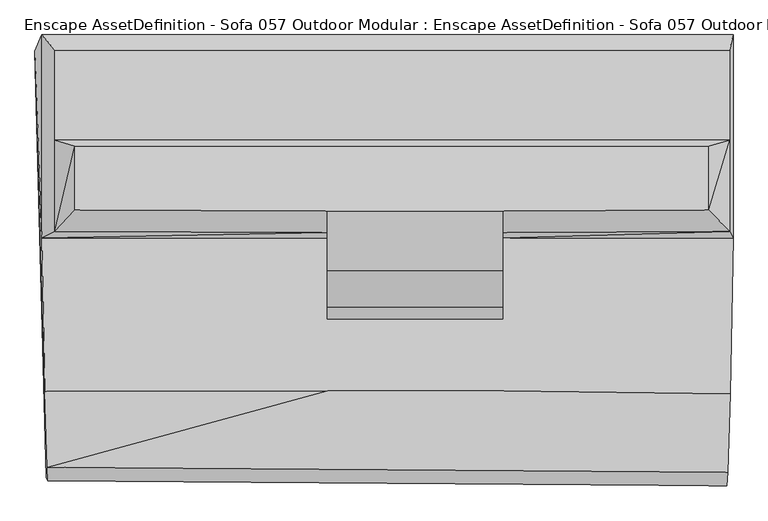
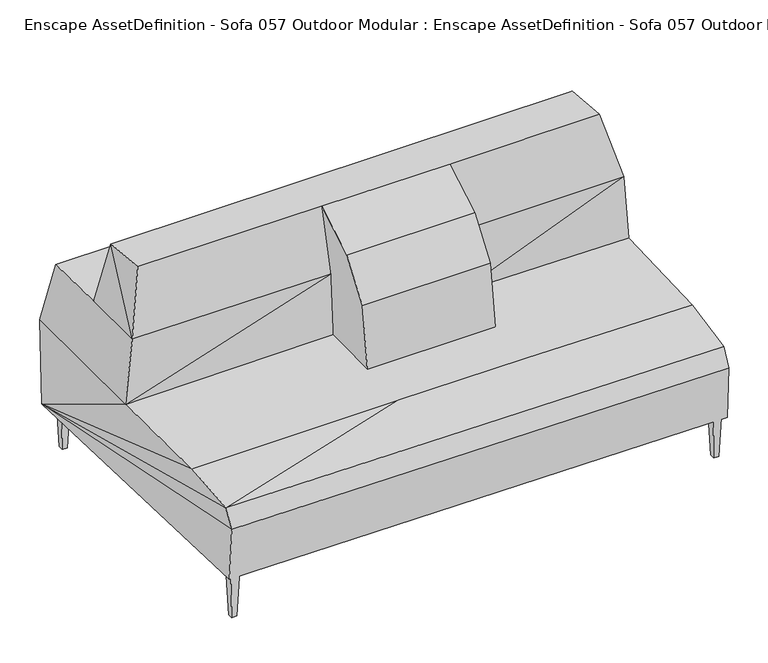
"""IFC4 building model written with IfcOpenShell, lengths in millimetres: geographic element geometry, Enscape AssetDefinition - Sofa 057 Outdoor Modular : Enscape AssetDefinition - Sofa 057 Outdoor Modular."""

from ifc_helpers import new_model, si_unit, origin, place, context, project, spatial, triangles, source, transform, mapped, element, save


def enscape_assetdefinition_sofa_057_outdoor_modular_enscape_592e224a(model_context):
    return source(origin(), model_context, "Body", "Tessellation", [
        triangles([(936.8137482, -602.9425939, 167.468121), (936.8136755, -612.1256453, 370.971833), (-923.9164976, -598.1377999, 369.8331671), (953.888142, 579.5160078, 167.4681391), (939.3489859, -575.5157433, 433.2673402), (-927.9177795, -588.9084214, 167.468121), (-959.234836, 579.5159351, 167.4681391), (-940.2710226, 624.4120319, 470.1738447), (-925.1793566, -561.5192502, 433.5167799), (-158.7827681, -351.5337753, 465.9283916), (-932.4754955, -352.797579, 465.3530634), (322.3198608, -351.5337027, 465.9283916), (-158.7827681, 67.2849873, 474.9990952), (-940.2710226, 66.8143947, 470.1738447), (-158.7827681, -154.8601696, 471.1503839), (322.3198608, -123.8390253, 706.5078203), (-158.7827681, -123.8390253, 706.507893), (-158.7827863, 141.4646028, 940.2689152), (-158.7827681, 82.7663234, 706.507893), (-904.2295452, 84.8344294, 706.5078203), (-849.5913105, 143.5047672, 940.2689152), (-158.7827681, -21.7205651, 845.5287678), (-849.5912378, 319.6356133, 924.6050457), (887.3329021, 143.5048126, 940.2689152), (887.3329021, 319.6356497, 924.6050457), (322.3198608, 141.4646028, 940.2689152), (322.3198608, -21.7205651, 845.5287678), (322.3198608, 82.7663234, 706.5078203), (953.8879967, 624.4120319, 470.1738447), (944.0658491, 582.6662879, 700.8636154), (944.0658491, 336.2693727, 706.5078203), (-904.2295452, 336.2693364, 706.5078203), (953.888142, 66.8144355, 470.1738447), (944.0658491, 84.8344748, 706.5078203), (322.3198608, 67.2849873, 474.9990952), (322.3198608, -154.8601696, 471.1503839), (-904.2292545, 582.6662879, 700.8636154), (946.37799, -360.0273703, 465.2242558), (903.2035177, -574.3092762, 0.0), (903.2035177, -554.4006077, 0.0), (922.4011831, -574.3092762, 0.0), (929.5526361, -581.7256113, 185.2861286), (896.0520647, -581.7256113, 185.2861286), (922.4011831, -554.4006077, 0.0), (929.5526361, -546.9843816, 185.2861286), (896.0520647, -546.9843816, 185.2861286), (903.2035177, 530.6211725, 0.0), (929.5526361, 523.2048738, 185.2861286), (922.4011831, 550.5297684, 0.0), (929.5526361, 557.9461035, 185.2861286), (903.2035177, 550.5297684, 0.0), (922.4011831, 530.6211725, 0.0), (896.0520647, 523.2048738, 185.2861286), (896.0520647, 557.9461035, 185.2861286), (-910.8898945, -574.3092762, 0.0), (-884.5408487, -581.7256113, 185.2861286), (-918.0414202, -581.7256113, 185.2861286), (-891.6923018, -554.4006077, 0.0), (-910.8898945, -554.4006077, 0.0), (-891.6923018, -574.3092762, 0.0), (-884.5408487, -546.9843816, 185.2861286), (-918.0414202, -546.9843816, 185.2861286), (-918.0414202, 523.2048738, 185.2861286), (-910.8898945, 530.6211725, 0.0), (-918.0414202, 557.9461035, 185.2861286), (-891.6923018, 550.5297684, 0.0), (-910.8898945, 550.5297684, 0.0), (-891.6923018, 530.6211725, 0.0), (-884.5408487, 523.2048738, 185.2861286), (-884.5408487, 557.9461035, 185.2861286)], [[67, 63, 65], [63, 70, 65], [63, 69, 70], [68, 70, 69], [66, 67, 65], [68, 66, 70], [66, 65, 70], [67, 64, 63], [64, 68, 69], [64, 67, 66], [64, 69, 63], [64, 66, 68], [59, 57, 62], [57, 61, 62], [57, 56, 61], [60, 61, 56], [58, 59, 62], [60, 58, 61], [58, 62, 61], [59, 55, 57], [55, 60, 56], [55, 59, 58], [55, 56, 57], [55, 58, 60], [51, 53, 54], [53, 50, 54], [53, 48, 50], [52, 50, 48], [49, 51, 54], [52, 49, 50], [49, 54, 50], [51, 47, 53], [47, 52, 48], [47, 51, 49], [47, 48, 53], [47, 49, 52], [40, 43, 46], [43, 45, 46], [43, 42, 45], [41, 45, 42], [44, 40, 46], [41, 44, 45], [44, 46, 45], [40, 39, 43], [39, 41, 42], [39, 40, 44], [39, 42, 43], [39, 44, 41], [4, 38, 5], [5, 38, 12], [38, 36, 12], [21, 23, 20], [23, 32, 20], [20, 32, 14], [32, 8, 14], [37, 8, 32], [37, 32, 30], [37, 30, 29], [8, 37, 29], [38, 33, 36], [4, 33, 38], [4, 29, 33], [33, 35, 36], [35, 33, 34], [33, 29, 34], [29, 31, 34], [32, 31, 30], [31, 32, 23], [29, 30, 31], [25, 31, 23], [24, 34, 31], [25, 24, 31], [28, 16, 36], [28, 34, 24], [28, 35, 34], [28, 36, 35], [27, 16, 28], [26, 28, 24], [27, 28, 26], [24, 25, 26], [25, 23, 26], [22, 27, 26], [16, 27, 22], [23, 18, 26], [18, 22, 26], [23, 21, 18], [19, 20, 14], [19, 18, 21], [20, 19, 21], [13, 19, 14], [17, 19, 13], [17, 22, 18], [17, 18, 19], [17, 16, 22], [16, 17, 36], [17, 15, 36], [14, 15, 13], [17, 13, 15], [36, 15, 10], [5, 12, 10], [12, 36, 10], [11, 10, 15], [14, 11, 15], [11, 9, 10], [9, 5, 10], [7, 8, 29], [7, 9, 11], [7, 14, 8], [7, 11, 14], [4, 7, 29], [7, 4, 6], [7, 6, 3], [7, 3, 9], [2, 5, 9], [4, 5, 2], [2, 9, 3], [4, 1, 6], [1, 2, 3], [6, 1, 3], [1, 4, 2]]),
    ])


if __name__ == "__main__":
    model = new_model("IFC4")
    model_context = context("Model", 3, world=origin())
    ifc_project = project(units=[si_unit("LENGTHUNIT", "METRE", prefix="MILLI")], contexts=[model_context])
    site = spatial("IfcSite", under=ifc_project)
    building = spatial("IfcBuilding", under=site)
    placement = place(None, origin())
    enscape_assetdefinition_sofa_057_outdoor_modular_enscape_shape = enscape_assetdefinition_sofa_057_outdoor_modular_enscape_592e224a(model_context)
    element("IfcGeographicElement", 1, ObjectType="Enscape AssetDefinition - Sofa 057 Outdoor Modular : Enscape AssetDefinition - Sofa 057 Outdoor Modular", at=placement, inside=building, context=model_context, shape_type="MappedRepresentation", body=[
        mapped(enscape_assetdefinition_sofa_057_outdoor_modular_enscape_shape, transform((0.0, 0.0, 0.0), x_axis=(1.0, 0.0, 0.0), y_axis=(0.0, 1.0, 0.0), z_axis=(0.0, 0.0, 1.0))),
    ])
    save(model, "model.ifc")
